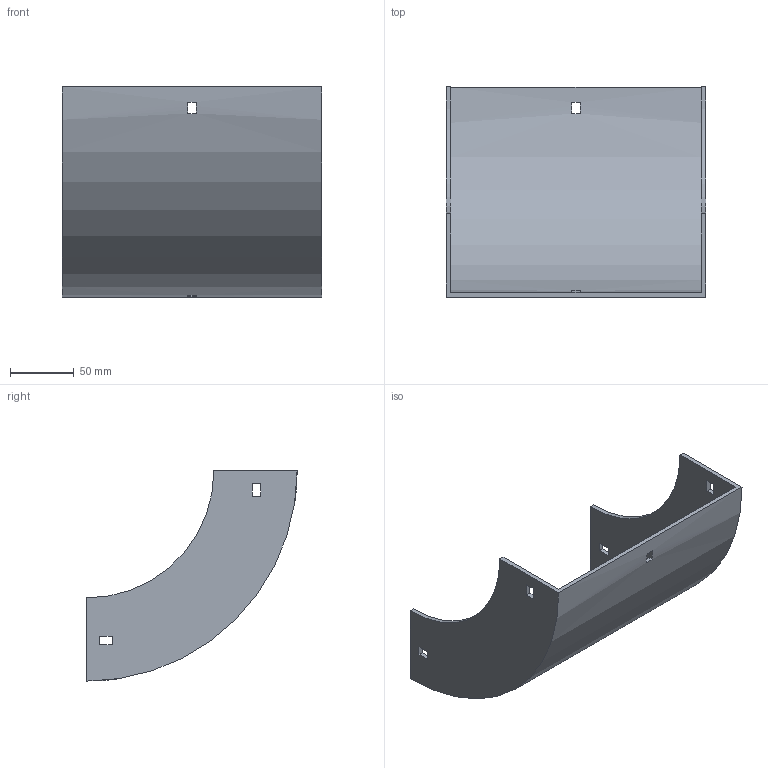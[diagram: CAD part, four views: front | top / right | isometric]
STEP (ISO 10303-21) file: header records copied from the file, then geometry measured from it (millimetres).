
FILE_DESCRIPTION (( 'STEP AP214' ), '1' );
FILE_NAME ('30B1H200.step', '2025-02-21T09:50:21', ( '' ), ( '' ), 'SwSTEP 2.0', 'SolidWorks 2023', '' );
FILE_SCHEMA (( 'AUTOMOTIVE_DESIGN' ));
Length unit declared in the file: millimetre
Products named in the file (1): 30B1H200
Bounding box: 204 x 165.5 x 165.5 mm (x, y, z)
Volume: 271568 mm3; surface area: 159290.7 mm2
Topology: 1 solids, 1 shells, 34 faces, 96 edges, 64 vertices
Faces by surface type: plane 30, cylinder 4
Entity records: 1143 total; most frequent: CARTESIAN_POINT 195, ORIENTED_EDGE 192, DIRECTION 182, EDGE_CURVE 96, LINE 80, VECTOR 80, VERTEX_POINT 64, AXIS2_PLACEMENT_3D 51
